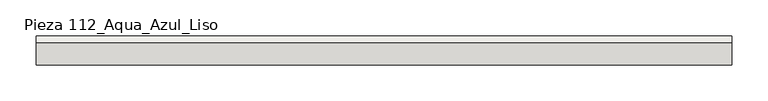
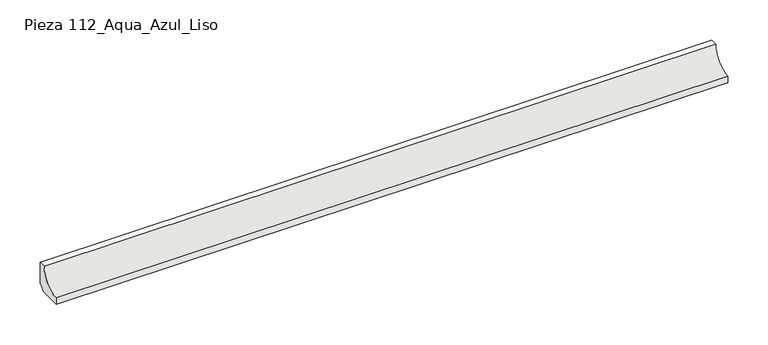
"""IFC4 building model written with IfcOpenShell, lengths in millimetres: slab geometry, ROSA GRES_112 : Pieza 112_Aqua_Azul_Liso."""

from ifc_helpers import new_model, si_unit, point, frame, frame_2d, origin, place, context, project, spatial, polyline, circle_curve, trimmed, segment, composite_curve, outline, extrude, source, transform, mapped, element, save


def pieza_112_aqua_azul_liso_5a065275(model_context):
    return source(origin(), model_context, "Body", "SweptSolid", [
        extrude(outline(composite_curve([segment(polyline([(0.0, 8.7114978), (-8.7114978, 0.0), (-40.0, 0.0), (-40.0, 9.9734114)]), True, "CONTINUOUS"), segment(trimmed(circle_curve(frame_2d((-39.9955547, 39.9955547)), 30.0221435), [point((-40.0, 9.9734114))], [point((-9.9734114, 40.0))], True, "CARTESIAN"), True, "CONTINUOUS"), segment(polyline([(-9.9734114, 40.0), (0.0, 40.0), (0.0, 8.7114978)]), True, "CONTINUOUS")], self_intersect=False)), frame((0.0, 0.0, 0.0), z_axis=(1.0, 0.0, 0.0), x_axis=(0.0, 1.0, 0.0)), (0.0, 0.0, 1.0), 963.3450913),
    ])


if __name__ == "__main__":
    model = new_model("IFC4")
    model_context = context("Model", 3, world=origin())
    ifc_project = project(units=[si_unit("LENGTHUNIT", "METRE", prefix="MILLI")], contexts=[model_context])
    site = spatial("IfcSite", under=ifc_project)
    building = spatial("IfcBuilding", under=site)
    placement = place(None, origin())
    pieza_112_aqua_azul_liso_shape = pieza_112_aqua_azul_liso_5a065275(model_context)
    element("IfcSlab", 1, ObjectType="ROSA GRES_112 : Pieza 112_Aqua_Azul_Liso", at=placement, inside=building, context=model_context, shape_type="MappedRepresentation", body=[
        mapped(pieza_112_aqua_azul_liso_shape, transform((0.0, 0.0, 0.0), x_axis=(1.0, 0.0, 0.0), y_axis=(0.0, 1.0, 0.0), z_axis=(0.0, 0.0, 1.0))),
    ])
    save(model, "model.ifc")
